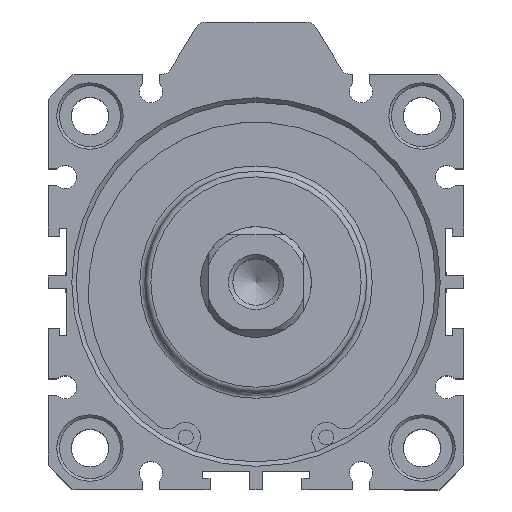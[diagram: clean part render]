
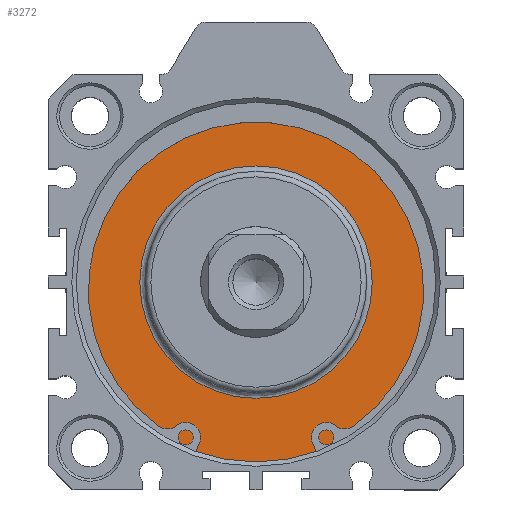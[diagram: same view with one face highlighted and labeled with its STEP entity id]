
A CAD part, top view. The second image highlights one B-rep face of the part: STEP entity #3272.
In plain terms, the highlighted planar face has unit normal (0, 0, 1).
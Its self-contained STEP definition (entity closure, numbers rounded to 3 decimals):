
#3221=CARTESIAN_POINT('',(0.359,19.684,37.3));
#3222=VERTEX_POINT('',#3221);
#3223=CARTESIAN_POINT('',(0.359,-1.316,37.3));
#3224=DIRECTION('',(0.0,0.0,1.0));
#3225=DIRECTION('',(0.0,-1.0,0.0));
#3226=AXIS2_PLACEMENT_3D('',#3223,#3224,#3225);
#3227=CIRCLE('',#3226,21.0);
#3228=EDGE_CURVE('',#3222,#3222,#3227,.T.);
#3253=CARTESIAN_POINT('',(0.359,24.934,37.3));
#3254=DIRECTION('',(0.0,0.0,1.0));
#3255=DIRECTION('',(1.0,0.0,0.0));
#3256=AXIS2_PLACEMENT_3D('',#3253,#3254,#3255);
#3257=PLANE('',#3256);
#3258=CARTESIAN_POINT('',(0.359,31.184,37.3));
#3259=VERTEX_POINT('',#3258);
#3260=CARTESIAN_POINT('',(0.359,-1.316,37.3));
#3261=DIRECTION('',(0.0,0.0,-1.0));
#3262=DIRECTION('',(0.0,1.0,0.0));
#3263=AXIS2_PLACEMENT_3D('',#3260,#3261,#3262);
#3264=CIRCLE('',#3263,32.5);
#3265=EDGE_CURVE('',#3259,#3259,#3264,.T.);
#3266=ORIENTED_EDGE('',*,*,#3265,.F.);
#3267=EDGE_LOOP('',(#3266));
#3268=FACE_OUTER_BOUND('',#3267,.T.);
#3269=ORIENTED_EDGE('',*,*,#3228,.F.);
#3270=EDGE_LOOP('',(#3269));
#3271=FACE_BOUND('',#3270,.T.);
#3272=ADVANCED_FACE('',(#3268,#3271),#3257,.T.);
